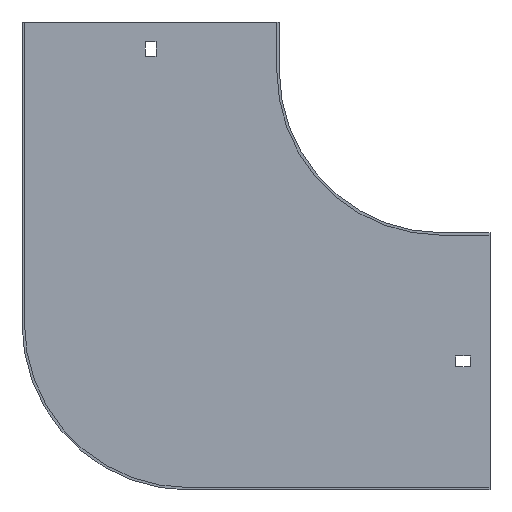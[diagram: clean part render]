
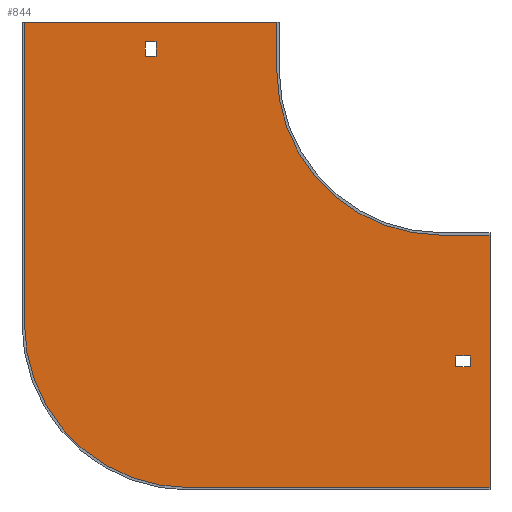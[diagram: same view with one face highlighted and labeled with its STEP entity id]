
A CAD part, front view. The second image highlights one B-rep face of the part: STEP entity #844.
In plain terms, the highlighted planar face has unit normal (0, -1, 0).
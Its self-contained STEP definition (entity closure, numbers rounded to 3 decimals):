
#22 = LINE ( 'NONE', #334, #577 ) ;
#28 = VECTOR ( 'NONE', #396, 1000. ) ;
#43 = CARTESIAN_POINT ( 'NONE',  ( -100., -1.5, 30. ) ) ;
#47 = VERTEX_POINT ( 'NONE', #645 ) ;
#49 = CARTESIAN_POINT ( 'NONE',  ( 0., -1.5, -180.25 ) ) ;
#58 = DIRECTION ( 'NONE',  ( -1., 0., 0. ) ) ;
#77 = DIRECTION ( 'NONE',  ( 1., 0., 0. ) ) ;
#78 = CARTESIAN_POINT ( 'NONE',  ( 30., -1.5, -254. ) ) ;
#85 = DIRECTION ( 'NONE',  ( 0., 0., -1. ) ) ;
#88 = EDGE_CURVE ( 'NONE', #605, #408, #515, .T. ) ;
#100 = EDGE_CURVE ( 'NONE', #547, #638, #518, .T. ) ;
#103 = LINE ( 'NONE', #43, #560 ) ;
#108 = LINE ( 'NONE', #49, #753 ) ;
#131 = AXIS2_PLACEMENT_3D ( 'NONE', #305, #495, #843 ) ;
#132 = CARTESIAN_POINT ( 'NONE',  ( -254., -1.5, 30. ) ) ;
#136 = CARTESIAN_POINT ( 'NONE',  ( 9., -1.5, 0. ) ) ;
#139 = VERTEX_POINT ( 'NONE', #397 ) ;
#143 = VECTOR ( 'NONE', #587, 1000. ) ;
#153 = DIRECTION ( 'NONE',  ( -1., 0., 0. ) ) ;
#166 = EDGE_CURVE ( 'NONE', #349, #547, #22, .T. ) ;
#181 = LINE ( 'NONE', #833, #569 ) ;
#183 = CARTESIAN_POINT ( 'NONE',  ( 30., -1.5, -254. ) ) ;
#186 = CARTESIAN_POINT ( 'NONE',  ( -173.75, -1.5, 0. ) ) ;
#188 = VECTOR ( 'NONE', #820, 1000. ) ;
#197 = FACE_BOUND ( 'NONE', #243, .T. ) ;
#198 = CIRCLE ( 'NONE', #542, 100. ) ;
#199 = VECTOR ( 'NONE', #58, 1000. ) ;
#200 = ORIENTED_EDGE ( 'NONE', *, *, #813, .T. ) ;
#207 = FACE_OUTER_BOUND ( 'NONE', #546, .T. ) ;
#213 = VERTEX_POINT ( 'NONE', #274 ) ;
#221 = CARTESIAN_POINT ( 'NONE',  ( 30., -1.5, -98.5 ) ) ;
#232 = EDGE_CURVE ( 'NONE', #408, #349, #198, .T. ) ;
#234 = LINE ( 'NONE', #689, #188 ) ;
#242 = CARTESIAN_POINT ( 'NONE',  ( -100., -1.5, 0. ) ) ;
#243 = EDGE_LOOP ( 'NONE', ( #298, #537, #422, #200 ) ) ;
#246 = DIRECTION ( 'NONE',  ( 0., 0., 1. ) ) ;
#250 = LINE ( 'NONE', #788, #351 ) ;
#253 = EDGE_CURVE ( 'NONE', #829, #139, #181, .T. ) ;
#255 = CARTESIAN_POINT ( 'NONE',  ( 0., -1.5, -100. ) ) ;
#263 = LINE ( 'NONE', #797, #804 ) ;
#272 = ORIENTED_EDGE ( 'NONE', *, *, #88, .F. ) ;
#274 = CARTESIAN_POINT ( 'NONE',  ( 30., -1.5, -100. ) ) ;
#279 = EDGE_CURVE ( 'NONE', #333, #406, #513, .T. ) ;
#287 = LINE ( 'NONE', #221, #729 ) ;
#298 = ORIENTED_EDGE ( 'NONE', *, *, #253, .T. ) ;
#300 = DIRECTION ( 'NONE',  ( 0., 0., -1. ) ) ;
#305 = CARTESIAN_POINT ( 'NONE',  ( 0., -1.5, 0. ) ) ;
#316 = CARTESIAN_POINT ( 'NONE',  ( -255.5, -1.5, 30. ) ) ;
#322 = ORIENTED_EDGE ( 'NONE', *, *, #325, .F. ) ;
#325 = EDGE_CURVE ( 'NONE', #638, #333, #103, .T. ) ;
#333 = VERTEX_POINT ( 'NONE', #242 ) ;
#334 = CARTESIAN_POINT ( 'NONE',  ( -254., -1.5, -154. ) ) ;
#336 = EDGE_CURVE ( 'NONE', #671, #391, #108, .T. ) ;
#342 = CARTESIAN_POINT ( 'NONE',  ( -154., -1.5, -154. ) ) ;
#345 = EDGE_LOOP ( 'NONE', ( #662, #658, #558, #601 ) ) ;
#348 = ORIENTED_EDGE ( 'NONE', *, *, #100, .F. ) ;
#349 = VERTEX_POINT ( 'NONE', #780 ) ;
#351 = VECTOR ( 'NONE', #246, 1000. ) ;
#368 = DIRECTION ( 'NONE',  ( 1., 0., 0. ) ) ;
#374 = EDGE_CURVE ( 'NONE', #467, #540, #263, .T. ) ;
#379 = CARTESIAN_POINT ( 'NONE',  ( 18., -1.5, -180.25 ) ) ;
#388 = CARTESIAN_POINT ( 'NONE',  ( 0., -1.5, -100. ) ) ;
#391 = VERTEX_POINT ( 'NONE', #379 ) ;
#396 = DIRECTION ( 'NONE',  ( 0., 0., -1. ) ) ;
#397 = CARTESIAN_POINT ( 'NONE',  ( -173.75, -1.5, 18. ) ) ;
#402 = CARTESIAN_POINT ( 'NONE',  ( 0., -1.5, 0. ) ) ;
#406 = VERTEX_POINT ( 'NONE', #255 ) ;
#408 = VERTEX_POINT ( 'NONE', #854 ) ;
#409 = CARTESIAN_POINT ( 'NONE',  ( -100., -1.5, 30. ) ) ;
#417 = VECTOR ( 'NONE', #793, 1000. ) ;
#422 = ORIENTED_EDGE ( 'NONE', *, *, #684, .T. ) ;
#435 = EDGE_CURVE ( 'NONE', #139, #47, #588, .T. ) ;
#440 = VECTOR ( 'NONE', #153, 1000. ) ;
#456 = PLANE ( 'NONE',  #511 ) ;
#459 = ORIENTED_EDGE ( 'NONE', *, *, #863, .F. ) ;
#462 = VERTEX_POINT ( 'NONE', #526 ) ;
#467 = VERTEX_POINT ( 'NONE', #818 ) ;
#468 = LINE ( 'NONE', #388, #807 ) ;
#480 = LINE ( 'NONE', #749, #440 ) ;
#483 = ORIENTED_EDGE ( 'NONE', *, *, #279, .F. ) ;
#495 = DIRECTION ( 'NONE',  ( 0., -1., 0. ) ) ;
#511 = AXIS2_PLACEMENT_3D ( 'NONE', #402, #611, #672 ) ;
#513 = CIRCLE ( 'NONE', #131, 100. ) ;
#515 = LINE ( 'NONE', #183, #199 ) ;
#518 = LINE ( 'NONE', #316, #143 ) ;
#526 = CARTESIAN_POINT ( 'NONE',  ( -180.25, -1.5, 9. ) ) ;
#527 = CARTESIAN_POINT ( 'NONE',  ( 9., -1.5, -173.75 ) ) ;
#529 = LINE ( 'NONE', #136, #28 ) ;
#537 = ORIENTED_EDGE ( 'NONE', *, *, #435, .T. ) ;
#540 = VERTEX_POINT ( 'NONE', #527 ) ;
#542 = AXIS2_PLACEMENT_3D ( 'NONE', #342, #615, #550 ) ;
#546 = EDGE_LOOP ( 'NONE', ( #348, #811, #755, #272, #459, #796, #483, #322 ) ) ;
#547 = VERTEX_POINT ( 'NONE', #132 ) ;
#550 = DIRECTION ( 'NONE',  ( 0., 0., -1. ) ) ;
#558 = ORIENTED_EDGE ( 'NONE', *, *, #336, .F. ) ;
#560 = VECTOR ( 'NONE', #300, 1000. ) ;
#569 = VECTOR ( 'NONE', #837, 1000. ) ;
#577 = VECTOR ( 'NONE', #816, 1000. ) ;
#587 = DIRECTION ( 'NONE',  ( 1., 0., 0. ) ) ;
#588 = LINE ( 'NONE', #186, #417 ) ;
#601 = ORIENTED_EDGE ( 'NONE', *, *, #831, .F. ) ;
#602 = FACE_BOUND ( 'NONE', #345, .T. ) ;
#605 = VERTEX_POINT ( 'NONE', #78 ) ;
#611 = DIRECTION ( 'NONE',  ( 0., -1., 0. ) ) ;
#615 = DIRECTION ( 'NONE',  ( 0., 1., 0. ) ) ;
#638 = VERTEX_POINT ( 'NONE', #409 ) ;
#645 = CARTESIAN_POINT ( 'NONE',  ( -173.75, -1.5, 9. ) ) ;
#658 = ORIENTED_EDGE ( 'NONE', *, *, #681, .F. ) ;
#662 = ORIENTED_EDGE ( 'NONE', *, *, #374, .F. ) ;
#671 = VERTEX_POINT ( 'NONE', #743 ) ;
#672 = DIRECTION ( 'NONE',  ( 0., 0., -1. ) ) ;
#681 = EDGE_CURVE ( 'NONE', #391, #467, #234, .T. ) ;
#684 = EDGE_CURVE ( 'NONE', #47, #462, #480, .T. ) ;
#689 = CARTESIAN_POINT ( 'NONE',  ( 18., -1.5, 0. ) ) ;
#722 = DIRECTION ( 'NONE',  ( -1., 0., 0. ) ) ;
#729 = VECTOR ( 'NONE', #85, 1000. ) ;
#743 = CARTESIAN_POINT ( 'NONE',  ( 9., -1.5, -180.25 ) ) ;
#749 = CARTESIAN_POINT ( 'NONE',  ( 0., -1.5, 9. ) ) ;
#753 = VECTOR ( 'NONE', #368, 1000. ) ;
#755 = ORIENTED_EDGE ( 'NONE', *, *, #232, .F. ) ;
#780 = CARTESIAN_POINT ( 'NONE',  ( -254., -1.5, -154. ) ) ;
#788 = CARTESIAN_POINT ( 'NONE',  ( -180.25, -1.5, 0. ) ) ;
#793 = DIRECTION ( 'NONE',  ( 0., 0., -1. ) ) ;
#796 = ORIENTED_EDGE ( 'NONE', *, *, #845, .F. ) ;
#797 = CARTESIAN_POINT ( 'NONE',  ( 0., -1.5, -173.75 ) ) ;
#803 = CARTESIAN_POINT ( 'NONE',  ( -180.25, -1.5, 18. ) ) ;
#804 = VECTOR ( 'NONE', #722, 1000. ) ;
#807 = VECTOR ( 'NONE', #77, 1000. ) ;
#811 = ORIENTED_EDGE ( 'NONE', *, *, #166, .F. ) ;
#813 = EDGE_CURVE ( 'NONE', #462, #829, #250, .T. ) ;
#816 = DIRECTION ( 'NONE',  ( 0., 0., 1. ) ) ;
#818 = CARTESIAN_POINT ( 'NONE',  ( 18., -1.5, -173.75 ) ) ;
#820 = DIRECTION ( 'NONE',  ( 0., 0., 1. ) ) ;
#829 = VERTEX_POINT ( 'NONE', #803 ) ;
#831 = EDGE_CURVE ( 'NONE', #540, #671, #529, .T. ) ;
#833 = CARTESIAN_POINT ( 'NONE',  ( 0., -1.5, 18. ) ) ;
#837 = DIRECTION ( 'NONE',  ( 1., 0., 0. ) ) ;
#843 = DIRECTION ( 'NONE',  ( 0., 0., -1. ) ) ;
#844 = ADVANCED_FACE ( 'NONE', ( #602, #207, #197 ), #456, .T. ) ;
#845 = EDGE_CURVE ( 'NONE', #406, #213, #468, .T. ) ;
#854 = CARTESIAN_POINT ( 'NONE',  ( -154., -1.5, -254. ) ) ;
#863 = EDGE_CURVE ( 'NONE', #213, #605, #287, .T. ) ;
